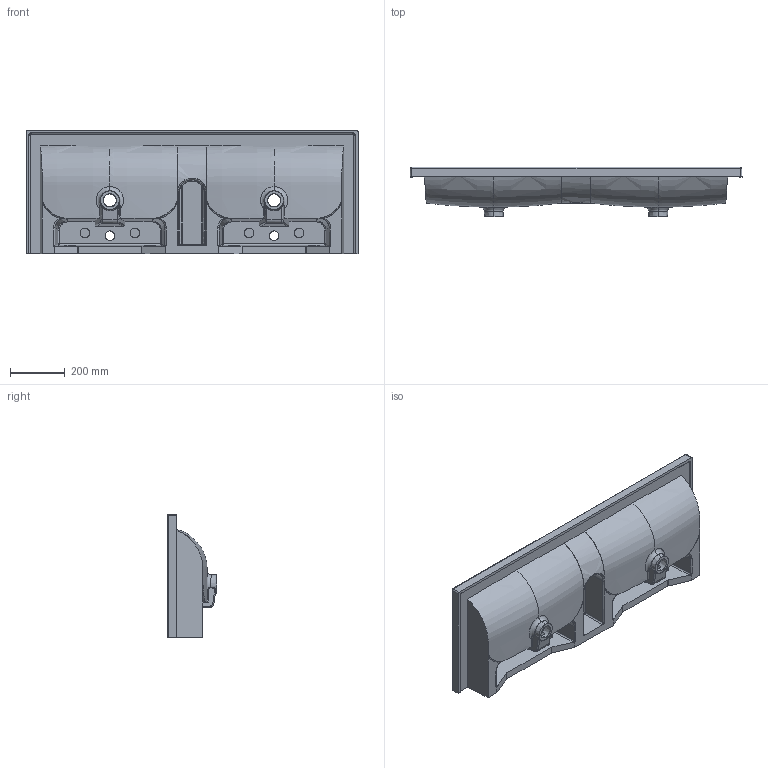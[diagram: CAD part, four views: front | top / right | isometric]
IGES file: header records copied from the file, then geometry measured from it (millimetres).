
Start section: SolidWorks IGES file using analytic representation for surfaces
Global section: file name: K:\lavabi tecla 3D IGS\a. MOOD (4)\MOOD45X120 MD04011.IGS; native system: SolidWorks 2013; preprocessor: SolidWorks 2013; author: UTENTE 1; date: 140521.164024; units: millimetre
Bounding box: 1207.56 x 180 x 450 mm (x, y, z)
Surface area: 1996892 mm2 (no closed solid volume)
Topology: 0 solids, 0 shells, 350 faces, 5406 edges, 5400 vertices
Faces by surface type: bspline 228, revolution 122
